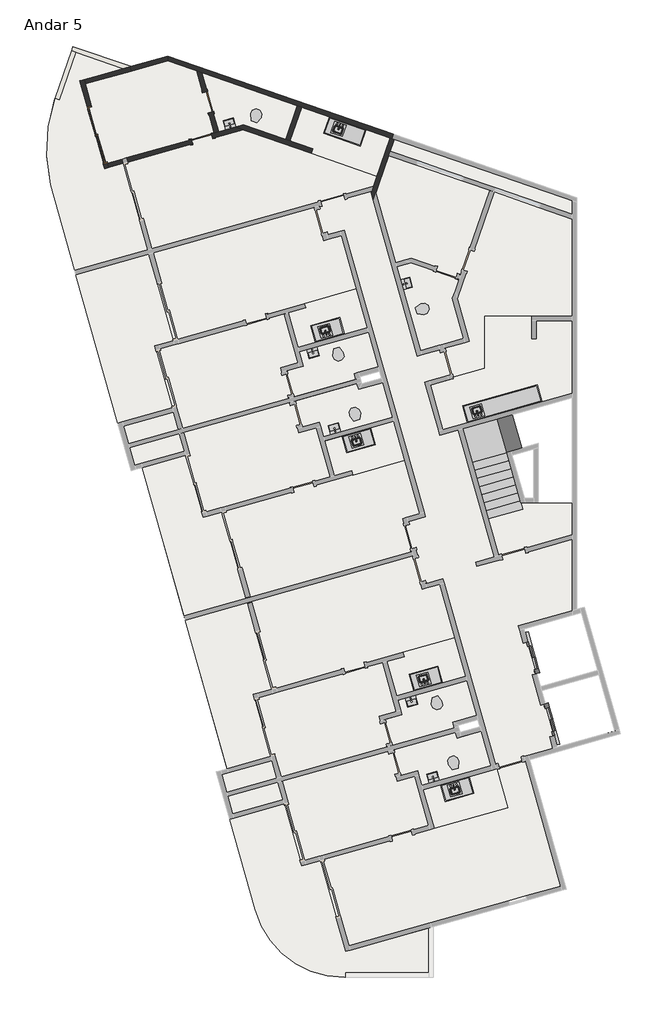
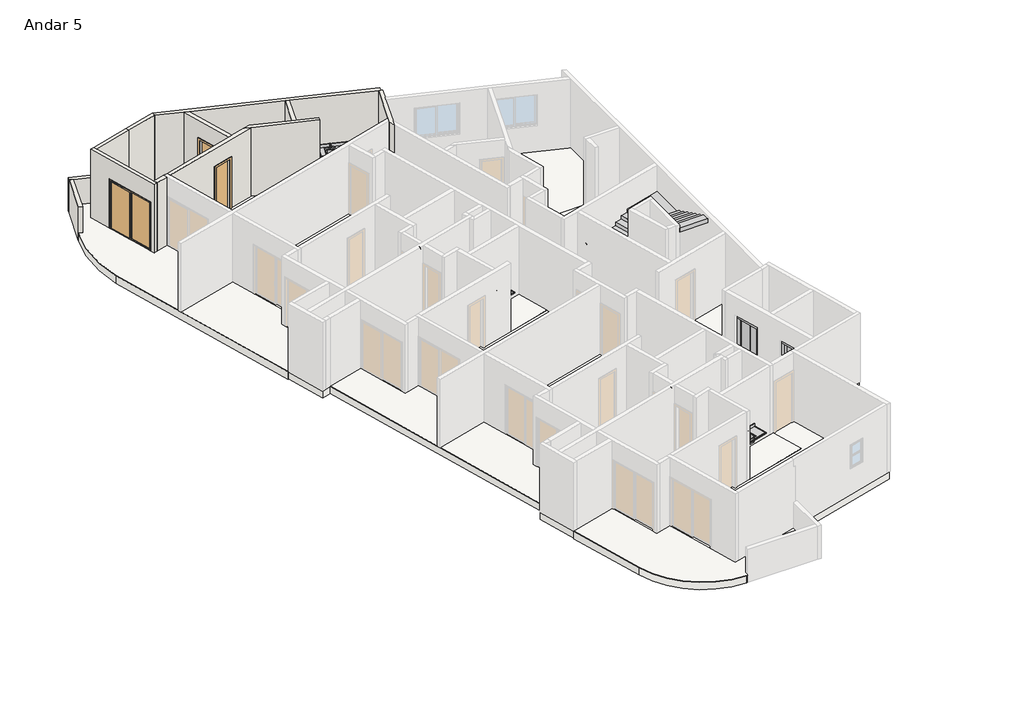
# One storey, part 3 of 3: 18 flow terminals, 18 slabs, 12 walls, 8 proxies, 3 doors, 1 stair flight.
"""IFC4 building model written with IfcOpenShell, lengths in millimetres."""

from ifc_helpers import new_model, si_unit, point, frame, frame_2d, origin, place, context, project, spatial, polyline, circle_curve, trimmed, segment, composite_curve, outline, extrude, faceted_brep, transform, mapped, element, save
from components import specialty_equipment_6c35da8b, specialty_equipment_77dfa124, rf_bancada_cozinha_rf_bancada_cozinha_340fef9f, rf_bancada_cozinha_rf_bancada_cozinha_cfb88ba1, rf_bancada_cozinha_rf_bancada_cozinha_2f873929, rf_bancada_cozinha_rf_bancada_cozinha_798ceddf, p3_70cm_ef4d15e3, p3_70cm_0a698c7c, p4_correr_200cm_eaaa0877, flow_terminal_cab7bae2, flow_terminal_3fb7dc42, flow_terminal_e42b9071, flow_terminal_c6e042c4, ap_01_creme_cr37_13e02e03, ap_01_creme_cr37_5ce6e54d

model = new_model("IFC4")

# Units and contexts
model_context = context("Model", 3, world=origin())
ifc_project = project(units=[si_unit("LENGTHUNIT", "METRE", prefix="MILLI")], contexts=[model_context])

# Site, building, storey
site = spatial("IfcSite", under=ifc_project)
building = spatial("IfcBuilding", under=site)
storey = spatial("IfcBuildingStorey", under=building, Name="Andar 5", Elevation=65250.0)

# Proxies
placement = place(None, origin())
specialty_equipment_shape = specialty_equipment_6c35da8b(model_context)
element("IfcBuildingElementProxy", 1, Name="Porta do elevador : Porta do elevador", ObjectType="Porta do elevador : Porta do elevador", at=placement, inside=storey, context=model_context, shape_type="MappedRepresentation", body=[
    mapped(specialty_equipment_shape, transform((-76594.4337486, 15747.4543727, 65250.0), x_axis=(0.27176796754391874, -0.9623628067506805, 0.0), y_axis=(0.9623628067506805, 0.27176796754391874, 0.0), z_axis=(0.0, 0.0, 1.0))),
])
specialty_equipment_2_shape = specialty_equipment_77dfa124(model_context)
element("IfcBuildingElementProxy", 2, Name="Porta do elevador : Porta do elevador", ObjectType="Porta do elevador : Porta do elevador", at=placement, inside=storey, context=model_context, shape_type="MappedRepresentation", body=[
    mapped(specialty_equipment_2_shape, transform((-75942.1906265, 13437.7836365, 65250.0), x_axis=(-0.27176796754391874, 0.9623628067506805, 0.0), y_axis=(-0.9623628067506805, -0.27176796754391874, 0.0), z_axis=(0.0, 0.0, 1.0))),
])
rf_bancada_cozinha_rf_bancada_cozinha_shape = rf_bancada_cozinha_rf_bancada_cozinha_340fef9f(model_context)
element("IfcBuildingElementProxy", 3, Name="RF_Bancada Cozinha : RF_Bancada Cozinha", ObjectType="RF_Bancada Cozinha : RF_Bancada Cozinha", at=placement, inside=storey, context=model_context, shape_type="MappedRepresentation", body=[
    mapped(rf_bancada_cozinha_rf_bancada_cozinha_shape, transform((-82760.548019, 26451.5820971, 66000.0), x_axis=(-0.9623628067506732, -0.27176796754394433, 0.0), y_axis=(0.27176796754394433, -0.9623628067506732, 0.0), z_axis=(0.0, 0.0, 1.0))),
])
element("IfcBuildingElementProxy", 4, Name="RF_Bancada Cozinha : RF_Bancada Cozinha", ObjectType="RF_Bancada Cozinha : RF_Bancada Cozinha", at=placement, inside=storey, context=model_context, shape_type="MappedRepresentation", body=[
    mapped(rf_bancada_cozinha_rf_bancada_cozinha_shape, transform((-79472.1556117, 14806.9921354, 66000.0), x_axis=(-0.962362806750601, -0.2717679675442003, 0.0), y_axis=(0.2717679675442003, -0.962362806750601, 0.0), z_axis=(0.0, 0.0, 1.0))),
])
rf_bancada_cozinha_rf_bancada_cozinha_2_shape = rf_bancada_cozinha_rf_bancada_cozinha_cfb88ba1(model_context)
element("IfcBuildingElementProxy", 5, Name="RF_Bancada Cozinha : RF_Bancada Cozinha", ObjectType="RF_Bancada Cozinha : RF_Bancada Cozinha", at=placement, inside=storey, context=model_context, shape_type="MappedRepresentation", body=[
    mapped(rf_bancada_cozinha_rf_bancada_cozinha_2_shape, transform((-81877.3021245, 23323.9029751, 66000.0), x_axis=(-0.9623628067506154, -0.27176796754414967, 0.0), y_axis=(0.27176796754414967, -0.9623628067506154, 0.0), z_axis=(0.0, 0.0, 1.0))),
])
element("IfcBuildingElementProxy", 6, Name="RF_Bancada Cozinha : RF_Bancada Cozinha", ObjectType="RF_Bancada Cozinha : RF_Bancada Cozinha", at=placement, inside=storey, context=model_context, shape_type="MappedRepresentation", body=[
    mapped(rf_bancada_cozinha_rf_bancada_cozinha_2_shape, transform((-78588.9097172, 11679.3130134, 66000.0), x_axis=(-0.9623628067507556, -0.27176796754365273, 0.0), y_axis=(0.27176796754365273, -0.9623628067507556, 0.0), z_axis=(0.0, 0.0, 1.0))),
])
rf_bancada_cozinha_rf_bancada_cozinha_3_shape = rf_bancada_cozinha_rf_bancada_cozinha_2f873929(model_context)
element("IfcBuildingElementProxy", 7, Name="RF_Bancada Cozinha : RF_Bancada Cozinha", ObjectType="RF_Bancada Cozinha : RF_Bancada Cozinha", at=placement, inside=storey, context=model_context, shape_type="MappedRepresentation", body=[
    mapped(rf_bancada_cozinha_rf_bancada_cozinha_3_shape, transform((-82030.0326121, 33293.9830661, 66000.0), x_axis=(-0.9449109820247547, 0.32732741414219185, 0.0), y_axis=(-0.32732741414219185, -0.9449109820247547, 0.0), z_axis=(0.0, 0.0, 1.0))),
])
rf_bancada_cozinha_rf_bancada_cozinha_4_shape = rf_bancada_cozinha_rf_bancada_cozinha_798ceddf(model_context)
element("IfcBuildingElementProxy", 8, Name="RF_Bancada Cozinha : RF_Bancada Cozinha", ObjectType="RF_Bancada Cozinha : RF_Bancada Cozinha", at=placement, inside=storey, context=model_context, shape_type="MappedRepresentation", body=[
    mapped(rf_bancada_cozinha_rf_bancada_cozinha_4_shape, transform((-76157.6622331, 24197.9763092, 66000.0), x_axis=(-0.9623628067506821, -0.27176796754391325, 0.0), y_axis=(0.27176796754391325, -0.9623628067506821, 0.0), z_axis=(0.0, 0.0, 1.0))),
])

# Doors
p3_70cm_shape = p3_70cm_ef4d15e3(model_context)
element("IfcDoor", 9, ObjectType="M_Folha única1 : P3 - 70CM", at=placement, inside=storey, context=model_context, shape_type="MappedRepresentation", body=[
    mapped(p3_70cm_shape, transform((-87513.806232, 32980.5300491, 65250.0), x_axis=(0.9623628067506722, 0.2717679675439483, 0.0), y_axis=(-0.2717679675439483, 0.9623628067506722, 0.0), z_axis=(0.0, 0.0, 1.0))),
])
p3_70cm_2_shape = p3_70cm_0a698c7c(model_context)
element("IfcDoor", 10, ObjectType="M_Folha única1 : P3 - 70CM", at=placement, inside=storey, context=model_context, shape_type="MappedRepresentation", body=[
    mapped(p3_70cm_2_shape, transform((-87314.304722, 34205.8663896, 65250.0), x_axis=(-0.2717679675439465, 0.9623628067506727, 0.0), y_axis=(-0.9623628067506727, -0.2717679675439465, 0.0), z_axis=(0.0, 0.0, 1.0))),
])
p4_correr_200cm_shape = p4_correr_200cm_eaaa0877(model_context)
element("IfcDoor", 11, ObjectType="Porta de correr dupla envidraçada sem revestimento : P4 - CORRER - 200CM", at=placement, inside=storey, context=model_context, shape_type="MappedRepresentation", body=[
    mapped(p4_correr_200cm_shape, transform((-91005.8131296, 33111.4415743, 65250.0), x_axis=(0.2717679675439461, -0.9623628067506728, 0.0), y_axis=(0.9623628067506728, 0.2717679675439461, 0.0), z_axis=(0.0, 0.0, 1.0))),
])

# Flow terminals
flow_terminal_shape = flow_terminal_cab7bae2(model_context)
element("IfcFlowTerminal", 12, ObjectType="RF_Pias : Pia da Bancada", at=placement, inside=storey, context=model_context, shape_type="MappedRepresentation", body=[
    mapped(flow_terminal_shape, transform((-83380.5102831, 26570.4992214, 65102.9), x_axis=(-0.9623628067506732, -0.27176796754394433, 0.0), y_axis=(0.27176796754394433, -0.9623628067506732, 0.0), z_axis=(0.0, 0.0, 1.0))),
])
element("IfcFlowTerminal", 13, ObjectType="RF_Pias : Pia da Bancada", at=placement, inside=storey, context=model_context, shape_type="MappedRepresentation", body=[
    mapped(flow_terminal_shape, transform((-80092.1178758, 14925.9092597, 65102.9), x_axis=(-0.962362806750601, -0.2717679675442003, 0.0), y_axis=(0.2717679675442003, -0.962362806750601, 0.0), z_axis=(0.0, 0.0, 1.0))),
])
element("IfcFlowTerminal", 14, ObjectType="RF_Pias : Pia da Bancada", at=placement, inside=storey, context=model_context, shape_type="MappedRepresentation", body=[
    mapped(flow_terminal_shape, transform((-78306.8185143, 23885.0542694, 65102.9), x_axis=(-0.9623628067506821, -0.27176796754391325, 0.0), y_axis=(0.27176796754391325, -0.9623628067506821, 0.0), z_axis=(0.0, 0.0, 1.0))),
])
flow_terminal_2_shape = flow_terminal_3fb7dc42(model_context)
element("IfcFlowTerminal", 15, ObjectType="Deca_Cuba de Apoio Retangular_L7300 : L.7300.17_Branco Gelo GE17", at=placement, inside=storey, context=model_context, shape_type="MappedRepresentation", body=[
    mapped(flow_terminal_2_shape, transform((-83090.0822283, 23308.7374016, 66000.0), x_axis=(-0.9623628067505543, -0.2717679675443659, 0.0), y_axis=(0.2717679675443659, -0.9623628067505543, 0.0), z_axis=(0.0, 0.0, 1.0))),
])
element("IfcFlowTerminal", 16, ObjectType="Deca_Cuba de Apoio Retangular_L7300 : L.7300.17_Branco Gelo GE17", at=placement, inside=storey, context=model_context, shape_type="MappedRepresentation", body=[
    mapped(flow_terminal_2_shape, transform((-79801.689821, 11664.1474399, 66000.0), x_axis=(-0.9623628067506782, -0.2717679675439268, 0.0), y_axis=(0.2717679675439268, -0.9623628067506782, 0.0), z_axis=(0.0, 0.0, 1.0))),
])
element("IfcFlowTerminal", 17, ObjectType="Deca_Cuba de Apoio Retangular_L7300 : L.7300.17_Branco Gelo GE17", at=placement, inside=storey, context=model_context, shape_type="MappedRepresentation", body=[
    mapped(flow_terminal_2_shape, transform((-80677.0991462, 28154.8020678, 66000.0), x_axis=(-0.2717679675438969, 0.9623628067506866, 0.0), y_axis=(-0.9623628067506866, -0.2717679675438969, 0.0), z_axis=(0.0, 0.0, 1.0))),
])
element("IfcFlowTerminal", 18, ObjectType="Deca_Cuba de Apoio Retangular_L7300 : L.7300.17_Branco Gelo GE17", at=placement, inside=storey, context=model_context, shape_type="MappedRepresentation", body=[
    mapped(flow_terminal_2_shape, transform((-86597.4204814, 33488.7004496, 66000.0), x_axis=(-0.9623628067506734, -0.27176796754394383, 0.0), y_axis=(0.27176796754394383, -0.9623628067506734, 0.0), z_axis=(0.0, 0.0, 1.0))),
])
flow_terminal_3_shape = flow_terminal_e42b9071(model_context)
element("IfcFlowTerminal", 19, ObjectType="Deca_Cuba de Apoio Retangular_L7300 : L.7300.17_Branco Gelo GE17", at=placement, inside=storey, context=model_context, shape_type="MappedRepresentation", body=[
    mapped(flow_terminal_3_shape, transform((-83802.1143033, 25830.1279553, 66000.0), x_axis=(-0.9623628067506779, -0.2717679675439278, 0.0), y_axis=(0.2717679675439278, -0.9623628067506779, 0.0), z_axis=(0.0, 0.0, 1.0))),
])
element("IfcFlowTerminal", 20, ObjectType="Deca_Cuba de Apoio Retangular_L7300 : L.7300.17_Branco Gelo GE17", at=placement, inside=storey, context=model_context, shape_type="MappedRepresentation", body=[
    mapped(flow_terminal_3_shape, transform((-80513.721896, 14185.5379936, 66000.0), x_axis=(-0.962362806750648, -0.27176796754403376, 0.0), y_axis=(0.27176796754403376, -0.962362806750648, 0.0), z_axis=(0.0, 0.0, 1.0))),
])
flow_terminal_4_shape = flow_terminal_c6e042c4(model_context)
element("IfcFlowTerminal", 21, ObjectType="RF_Pias : Pia da Bancada", at=placement, inside=storey, context=model_context, shape_type="MappedRepresentation", body=[
    mapped(flow_terminal_4_shape, transform((-82343.483233, 22898.2626745, 65102.9), x_axis=(-0.9623628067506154, -0.27176796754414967, 0.0), y_axis=(0.27176796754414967, -0.9623628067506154, 0.0), z_axis=(0.0, 0.0, 1.0))),
])
element("IfcFlowTerminal", 22, ObjectType="RF_Pias : Pia da Bancada", at=placement, inside=storey, context=model_context, shape_type="MappedRepresentation", body=[
    mapped(flow_terminal_4_shape, transform((-79055.0908257, 11253.6727129, 65102.9), x_axis=(-0.9623628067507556, -0.27176796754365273, 0.0), y_axis=(0.27176796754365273, -0.9623628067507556, 0.0), z_axis=(0.0, 0.0, 1.0))),
])
element("IfcFlowTerminal", 23, ObjectType="RF_Pias : Pia da Bancada", at=placement, inside=storey, context=model_context, shape_type="MappedRepresentation", body=[
    mapped(flow_terminal_4_shape, transform((-82939.3392028, 33309.5545572, 65102.9), x_axis=(-0.9449109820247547, 0.32732741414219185, 0.0), y_axis=(-0.32732741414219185, -0.9449109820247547, 0.0), z_axis=(0.0, 0.0, 1.0))),
])
ap_01_creme_cr37_shape = ap_01_creme_cr37_13e02e03(model_context)
element("IfcFlowTerminal", 24, ObjectType="Deca_Shared_Assento_P.900 : AP.01_Creme CR37", at=placement, inside=storey, context=model_context, shape_type="MappedRepresentation", body=[
    mapped(ap_01_creme_cr37_shape, transform((-83017.5301151, 25983.4740486, 65637.8723674), x_axis=(0.9623628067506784, 0.2717679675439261, 0.0), y_axis=(0.0, 0.0, 1.0), z_axis=(0.2717679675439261, -0.9623628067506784, 0.0))),
])
element("IfcFlowTerminal", 25, ObjectType="Deca_Shared_Assento_P.900 : AP.01_Creme CR37", at=placement, inside=storey, context=model_context, shape_type="MappedRepresentation", body=[
    mapped(ap_01_creme_cr37_shape, transform((-79729.1377078, 14338.8840869, 65637.8723674), x_axis=(0.962362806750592, 0.2717679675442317, 0.0), y_axis=(0.0, 0.0, 1.0), z_axis=(0.2717679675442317, -0.962362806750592, 0.0))),
])
element("IfcFlowTerminal", 26, ObjectType="Deca_Shared_Assento_P.900 : AP.01_Creme CR37", at=placement, inside=storey, context=model_context, shape_type="MappedRepresentation", body=[
    mapped(ap_01_creme_cr37_shape, transform((-80349.5164684, 27236.3600819, 65637.8723674), x_axis=(-0.271767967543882, 0.9623628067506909, 0.0), y_axis=(0.0, 0.0, 1.0), z_axis=(0.9623628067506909, 0.271767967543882, 0.0))),
])
element("IfcFlowTerminal", 27, ObjectType="Deca_Shared_Assento_P.900 : AP.01_Creme CR37", at=placement, inside=storey, context=model_context, shape_type="MappedRepresentation", body=[
    mapped(ap_01_creme_cr37_shape, transform((-85777.8760768, 33566.4131555, 65637.8723674), x_axis=(-0.9449109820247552, 0.3273274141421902, 0.0), y_axis=(0.0, 0.0, 1.0000000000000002), z_axis=(0.3273274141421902, 0.9449109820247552, 0.0))),
])
ap_01_creme_cr37_2_shape = ap_01_creme_cr37_5ce6e54d(model_context)
element("IfcFlowTerminal", 28, ObjectType="Deca_Shared_Assento_P.900 : AP.01_Creme CR37", at=placement, inside=storey, context=model_context, shape_type="MappedRepresentation", body=[
    mapped(ap_01_creme_cr37_2_shape, transform((-82341.1813229, 23588.4422577, 65637.8723674), x_axis=(0.9623628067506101, 0.27176796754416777, 0.0), y_axis=(0.0, 0.0, -1.0), z_axis=(-0.27176796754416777, 0.9623628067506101, 0.0))),
])
element("IfcFlowTerminal", 29, ObjectType="Deca_Shared_Assento_P.900 : AP.01_Creme CR37", at=placement, inside=storey, context=model_context, shape_type="MappedRepresentation", body=[
    mapped(ap_01_creme_cr37_2_shape, transform((-79052.7889156, 11943.852296, 65637.8723674), x_axis=(0.9623628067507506, 0.2717679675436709, 0.0), y_axis=(0.0, 0.0, -1.0000000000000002), z_axis=(-0.2717679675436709, 0.9623628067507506, 0.0))),
])

# Slabs
element("IfcSlab", 30, ObjectType="TZ_Piso de Áreas Molhadas", at=placement, inside=storey, context=model_context, shape_type="SweptSolid", body=[
    extrude(outline(composite_curve([segment(polyline([(-90765.4571774, 31984.341749), (-90143.7425806, 32159.9118263), (-89328.438678, 29272.823406), (-91766.0080564, 28584.4621444), (-92573.2320087, 31442.9384962)]), True, "CONTINUOUS"), segment(trimmed(circle_curve(frame_2d((-87414.5556743, 32622.5665107)), 5291.829908), [point((-92573.2320087, 31442.9384962))], [point((-92422.0860726, 34333.7366032))], False, "CARTESIAN"), True, "CONTINUOUS"), segment(polyline([(-92422.0860726, 34333.7366032), (-92280.2794148, 34284.6132387), (-91729.7010481, 35873.9929322), (-90151.0501028, 35327.1311202), (-91594.3494784, 34919.5483093), (-90765.4571774, 31984.341749)]), True, "CONTINUOUS")], self_intersect=False)), frame((0.0, 0.0, 65250.0), z_axis=(0.0, 0.0, 1.0), x_axis=(1.0, 0.0, 0.0)), (0.0, 0.0, 1.0), 20.0),
])
element("IfcSlab", 31, ObjectType="TZ_Piso de Áreas Molhadas", at=placement, inside=storey, context=model_context, shape_type="SweptSolid", body=[
    extrude(outline(polyline([(-88472.3695802, 26241.3805647), (-89094.084177, 26065.8104874), (-88509.7830468, 23996.7304529), (-90325.6378284, 23483.9392686), (-91725.2428613, 28440.1077234), (-89287.6734828, 29128.468985), (-88472.3695802, 26241.3805647)])), frame((0.0, 0.0, 65250.0), z_axis=(0.0, 0.0, 1.0), x_axis=(1.0, 0.0, 0.0)), (0.0, 0.0, 1.0), 20.0),
])
element("IfcSlab", 32, ObjectType="TZ_Piso de Áreas Molhadas", at=placement, inside=storey, context=model_context, shape_type="SweptSolid", body=[
    extrude(outline(polyline([(-86855.3501733, 20515.3218645), (-86040.0462707, 17628.2334443), (-88109.1263052, 17043.9323141), (-89508.731338, 22000.1007688), (-88061.3659003, 22408.8318218), (-87477.0647701, 20339.7517872), (-86855.3501733, 20515.3218645)])), frame((0.0, 0.0, 65250.0), z_axis=(0.0, 0.0, 1.0), x_axis=(1.0, 0.0, 0.0)), (0.0, 0.0, 1.0), 20.0),
])
element("IfcSlab", 33, ObjectType="TZ_Piso de Áreas Molhadas", at=placement, inside=storey, context=model_context, shape_type="SweptSolid", body=[
    extrude(outline(polyline([(-78926.5637691, 28284.9851582), (-79146.9727346, 27648.7205404), (-78771.1333302, 26317.8283554), (-80214.6775403, 25910.176404), (-81004.3851492, 28706.6252933), (-80530.2499593, 28840.5194505), (-78926.5637691, 28284.9851582)])), frame((0.0, 0.0, 65250.0), z_axis=(0.0, 0.0, 1.0), x_axis=(1.0, 0.0, 0.0)), (0.0, 0.0, 1.0), 20.0),
])
element("IfcSlab", 34, ObjectType="TZ_Piso de Áreas Molhadas", at=placement, inside=storey, context=model_context, shape_type="SweptSolid", body=[
    extrude(outline(polyline([(-78070.9150345, 27060.8243598), (-76493.6479314, 27060.8243598), (-76493.6479314, 26310.8243598), (-76343.6479314, 26310.8243598), (-76343.6479314, 26910.8243598), (-75147.8282189, 26910.8243598), (-75147.8282189, 24483.4871675), (-79467.3156296, 23263.6786855), (-79888.5559793, 24755.3410359), (-79127.7601479, 24970.1871785), (-79141.3485461, 25018.3053183), (-78070.9150345, 25320.5920836), (-78070.9150345, 27060.8243598)])), frame((0.0, 0.0, 65250.0), z_axis=(0.0, 0.0, 1.0), x_axis=(1.0, 0.0, 0.0)), (0.0, 0.0, 1.0), 20.0),
])
element("IfcSlab", 35, ObjectType="TZ_Piso de Áreas Molhadas", at=placement, inside=storey, context=model_context, shape_type="SweptSolid", body=[
    extrude(outline(polyline([(-84719.4810559, 32955.6762822), (-86137.8721095, 33447.0223292), (-86956.7711455, 33215.7680402), (-87515.4733556, 35194.1992432), (-84326.6881589, 34089.5694606), (-84719.4810559, 32955.6762822)])), frame((0.0, 0.0, 65250.0), z_axis=(0.0, 0.0, 1.0), x_axis=(1.0, 0.0, 0.0)), (0.0, 0.0, 1.0), 20.0),
])
element("IfcSlab", 36, ObjectType="TZ_Piso de Áreas Molhadas", at=placement, inside=storey, context=model_context, shape_type="SweptSolid", body=[
    extrude(outline(polyline([(-84577.7444086, 32906.57717), (-84184.9515116, 34040.4703485), (-81226.8582774, 33015.7547641), (-81668.7502865, 31740.1249383), (-83870.9147351, 32502.9785914), (-83821.815623, 32644.7152387), (-84577.7444086, 32906.57717)])), frame((0.0, 0.0, 65250.0), z_axis=(0.0, 0.0, 1.0), x_axis=(1.0, 0.0, 0.0)), (0.0, 0.0, 1.0), 20.0),
])
element("IfcSlab", 37, ObjectType="TZ_Piso de Áreas Molhadas", at=placement, inside=storey, context=model_context, shape_type="SweptSolid", body=[
    extrude(outline(polyline([(-81949.8925784, 26524.6420501), (-81623.7710174, 25369.806682), (-82432.1557751, 25141.5215893), (-82377.8021816, 24949.0490279), (-84456.5058441, 24362.030218), (-84701.0970149, 25228.1567441), (-84123.6793309, 25391.2175246), (-84259.5633146, 25872.398928), (-81949.8925784, 26524.6420501)])), frame((0.0, 0.0, 65250.0), z_axis=(0.0, 0.0, 1.0), x_axis=(1.0, 0.0, 0.0)), (0.0, 0.0, 1.0), 20.0),
])
element("IfcSlab", 38, ObjectType="TZ_Piso de Áreas Molhadas", at=placement, inside=storey, context=model_context, shape_type="SweptSolid", body=[
    extrude(outline(polyline([(-84089.7975819, 27479.0039186), (-82357.5445298, 27968.1862602), (-81990.6577736, 26668.9964711), (-84300.3285098, 26016.753349), (-84626.4500708, 27171.5887171), (-84049.0323868, 27334.6494976), (-84089.7975819, 27479.0039186)])), frame((0.0, 0.0, 65250.0), z_axis=(0.0, 0.0, 1.0), x_axis=(1.0, 0.0, 0.0)), (0.0, 0.0, 1.0), 20.0),
])
element("IfcSlab", 39, ObjectType="TZ_Piso de Áreas Molhadas", at=placement, inside=storey, context=model_context, shape_type="SweptSolid", body=[
    extrude(outline(polyline([(-84171.1494782, 23351.5492709), (-84415.740649, 24217.675797), (-82337.0369864, 24804.6946069), (-82282.6833929, 24612.2220455), (-81474.2986352, 24840.5071383), (-81148.1770742, 23685.6717702), (-83457.8478104, 23033.4286481), (-83593.7317942, 23514.6100514), (-84171.1494782, 23351.5492709)])), frame((0.0, 0.0, 65250.0), z_axis=(0.0, 0.0, 1.0), x_axis=(1.0, 0.0, 0.0)), (0.0, 0.0, 1.0), 20.0),
])
element("IfcSlab", 40, ObjectType="TZ_Piso de Áreas Molhadas", at=placement, inside=storey, context=model_context, shape_type="SweptSolid", body=[
    extrude(outline(composite_curve([segment(polyline([(-79945.4990038, 5119.4122055), (-82713.5540687, 5119.4122055), (-82713.5540687, 4969.4122055), (-82751.3896972, 4969.4122055)]), True, "CONTINUOUS"), segment(trimmed(circle_curve(frame_2d((-82751.3896972, 8069.4122055)), 3100.0), [point((-82751.3896972, 4969.4122055))], [point((-85734.7143981, 7226.9315061))], False, "CARTESIAN"), True, "CONTINUOUS"), segment(polyline([(-85734.7143981, 7226.9315061), (-86588.8282733, 10251.4506708), (-84772.9735093, 10764.2419177), (-84188.6722855, 8695.1618243), (-83566.957766, 8870.7319029), (-82710.8885369, 5839.2889958), (-79945.4990038, 6620.2256515), (-79945.4990038, 5119.4122055)]), True, "CONTINUOUS")], self_intersect=False)), frame((0.0, 0.0, 65250.0), z_axis=(0.0, 0.0, 1.0), x_axis=(1.0, 0.0, 0.0)), (0.0, 0.0, 1.0), 20.0),
])
element("IfcSlab", 41, ObjectType="TZ_Piso de Áreas Molhadas", at=placement, inside=storey, context=model_context, shape_type="SweptSolid", body=[
    extrude(outline(polyline([(-78185.906228, 13195.9171766), (-77859.7846669, 12041.0818085), (-80169.4554031, 11388.8386864), (-80305.3393869, 11870.0200898), (-80882.7570709, 11706.9593092), (-81127.3482417, 12573.0858353), (-79048.6445791, 13160.1046452), (-78994.2909856, 12967.6320839), (-78185.906228, 13195.9171766)])), frame((0.0, 0.0, 65250.0), z_axis=(0.0, 0.0, 1.0), x_axis=(1.0, 0.0, 0.0)), (0.0, 0.0, 1.0), 20.0),
])
element("IfcSlab", 42, ObjectType="TZ_Piso de Áreas Molhadas", at=placement, inside=storey, context=model_context, shape_type="SweptSolid", body=[
    extrude(outline(polyline([(-77307.7782946, 10638.3027935), (-79761.8034518, 9945.2944763), (-80128.690208, 11244.4842654), (-77674.6650508, 11937.4925826), (-77307.7782946, 10638.3027935)])), frame((0.0, 0.0, 65250.0), z_axis=(0.0, 0.0, 1.0), x_axis=(1.0, 0.0, 0.0)), (0.0, 0.0, 1.0), 20.0),
])
element("IfcSlab", 43, ObjectType="TZ_Piso de Áreas Molhadas", at=placement, inside=storey, context=model_context, shape_type="SweptSolid", body=[
    extrude(outline(polyline([(-81107.9410005, 23543.1910314), (-80740.5251229, 22242.1275601), (-82472.778175, 21752.9452185), (-82513.5433702, 21897.2996395), (-83090.9610542, 21734.238859), (-83418.0192411, 22888.8089065), (-81107.9410005, 23543.1910314)])), frame((0.0, 0.0, 65250.0), z_axis=(0.0, 0.0, 1.0), x_axis=(1.0, 0.0, 0.0)), (0.0, 0.0, 1.0), 20.0),
])
element("IfcSlab", 44, ObjectType="TZ_Piso de Áreas Molhadas", at=placement, inside=storey, context=model_context, shape_type="SweptSolid", body=[
    extrude(outline(polyline([(-85183.9771729, 14596.790603), (-85805.6917697, 14421.2205257), (-85221.3906395, 12352.1404912), (-86668.7560772, 11943.4094383), (-88068.36111, 16899.5778931), (-85999.2810755, 17483.8790233), (-85183.9771729, 14596.790603)])), frame((0.0, 0.0, 65250.0), z_axis=(0.0, 0.0, 1.0), x_axis=(1.0, 0.0, 0.0)), (0.0, 0.0, 1.0), 20.0),
])
element("IfcSlab", 45, ObjectType="TZ_Piso de Áreas Molhadas", at=placement, inside=storey, context=model_context, shape_type="SweptSolid", body=[
    extrude(outline(polyline([(-81412.7046076, 13583.5667824), (-80835.2869236, 13746.6275629), (-80971.1709074, 14227.8089663), (-78661.5001712, 14880.0520884), (-78335.3786101, 13725.2167203), (-79143.7633678, 13496.9316276), (-79089.4097743, 13304.4590662), (-81168.1134368, 12717.4402563), (-81412.7046076, 13583.5667824)])), frame((0.0, 0.0, 65250.0), z_axis=(0.0, 0.0, 1.0), x_axis=(1.0, 0.0, 0.0)), (0.0, 0.0, 1.0), 20.0),
])
element("IfcSlab", 46, ObjectType="TZ_Piso de Áreas Molhadas", at=placement, inside=storey, context=model_context, shape_type="SweptSolid", body=[
    extrude(outline(polyline([(-78701.7362448, 15022.5328272), (-81012.8731576, 14371.8995868), (-81338.0576635, 15526.9987554), (-80760.6399795, 15690.059536), (-80801.4051746, 15834.413957), (-79069.1521225, 16323.5962985), (-78701.7362448, 15022.5328272)])), frame((0.0, 0.0, 65250.0), z_axis=(0.0, 0.0, 1.0), x_axis=(1.0, 0.0, 0.0)), (0.0, 0.0, 1.0), 20.0),
])
element("IfcSlab", 47, ObjectType="TZ_Laje 30cm", at=placement, inside=storey, context=model_context, shape_type="SweptSolid", body=[
    extrude(outline(composite_curve([segment(polyline([(-82713.5540687, 4969.4122055), (-82751.3896972, 4969.4122055)]), True, "CONTINUOUS"), segment(trimmed(circle_curve(frame_2d((-82751.3896972, 8069.4122055)), 3100.0), [point((-82751.3896972, 4969.4122055))], [point((-85734.7143981, 7226.9315061))], False, "CARTESIAN"), True, "CONTINUOUS"), segment(polyline([(-85734.7143981, 7226.9315061), (-86588.8282747, 10251.4506758), (-86574.3928326, 10255.5271953), (-87018.7334595, 11828.9903844), (-86664.6795577, 11928.9739962), (-89512.8078575, 22014.5362109), (-89866.8617594, 21914.5525991), (-90311.2023863, 23488.0157882), (-90325.6378284, 23483.9392686), (-92573.2320087, 31442.9384962)]), True, "CONTINUOUS"), segment(trimmed(circle_curve(frame_2d((-87414.5556743, 32622.5665107)), 5291.829908), [point((-92573.2320087, 31442.9384962))], [point((-92426.4466323, 34320.9224218))], False, "CARTESIAN"), True, "CONTINUOUS"), segment(polyline([(-92426.4466323, 34320.9224218), (-92422.0160621, 34333.7123509), (-92403.1178425, 34327.1658026), (-91809.986912, 36039.3839237), (-89899.2062586, 35377.468778), (-88658.6666899, 35727.7929124), (-75017.8282189, 31002.4584964), (-75017.8282189, 17238.3098681), (-74750.7083414, 17313.7436086), (-73565.8000029, 13117.8417711), (-76592.4310301, 12263.1315132), (-75369.6745845, 7933.2050117), (-79815.4990038, 6677.7193903), (-79815.4990038, 4989.4122055), (-82713.5540687, 4989.4122055), (-82713.5540687, 4969.4122055)]), True, "CONTINUOUS")], self_intersect=False), holes=[polyline([(-81583.0058223, 25225.452261), (-82247.0361589, 25037.9323634), (-82179.094167, 24797.3416617), (-81515.0638304, 24984.8615593), (-81583.0058223, 25225.452261)]), polyline([(-78294.613415, 13580.8622993), (-78958.6437516, 13393.3424017), (-78890.7017597, 13152.7517), (-78226.6714231, 13340.2715976), (-78294.613415, 13580.8622993)]), polyline([(-74840.4856705, 17153.3066079), (-76760.3994699, 16611.1295126), (-76221.8794944, 14704.1660107), (-75646.150803, 12665.442005), (-73726.2370035, 13207.6191002), (-74270.7319215, 15135.7405865), (-74840.4856705, 17153.3066079)]), polyline([(-77952.9130698, 20291.1915783), (-76801.2963825, 20616.4041949), (-76858.5413412, 20819.1154254), (-75147.8282189, 20819.1154254), (-75147.8282189, 24343.0530162), (-78807.9060206, 23309.4595541), (-77952.9130698, 20291.1915783)])]), frame((0.0, 0.0, 64950.0), z_axis=(0.0, 0.0, 1.0), x_axis=(1.0, 0.0, 0.0)), (0.0, 0.0, 1.0), 300.0),
])

# Stair flight
element("IfcStairFlight", 48, ObjectType="Profundidade de 150mm", at=placement, inside=storey, context=model_context, shape_type="Brep", body=[
    faceted_brep([(-78029.0944782, 20560.1246789, 65388.0952381), (-77952.7808761, 20290.7249124, 65388.0952381), (-76802.2714069, 20616.6328483, 65388.0952381), (-76878.3664628, 20886.0945229, 65388.0952381), (-78029.0944782, 20560.1246789, 65250.0), (-77952.7808761, 20290.7249124, 65250.0), (-76802.2714069, 20616.6328483, 65250.0), (-76878.3664628, 20886.0945229, 65250.0), (-78105.4080802, 20829.5244453, 65526.1904762), (-78029.0944782, 20560.1246789, 65526.1904762), (-76878.3664628, 20886.0945229, 65526.1904762), (-76954.4615188, 21155.5561975, 65526.1904762), (-78105.4080802, 20829.5244453, 65358.939228), (-78045.2065482, 20617.0029783, 65250.0), (-76894.4323913, 20942.985893, 65250.0), (-76954.4615188, 21155.5561975, 65358.939228), (-78181.7216823, 21098.9242117, 65664.2857143), (-78105.4080802, 20829.5244453, 65664.2857143), (-76954.4615188, 21155.5561975, 65664.2857143), (-77030.5565747, 21425.017872, 65664.2857143), (-78181.7216823, 21098.9242117, 65497.0344661), (-77030.5565747, 21425.017872, 65497.0344661), (-78258.0352843, 21368.3239781, 65802.3809524), (-78181.7216823, 21098.9242117, 65802.3809524), (-77030.5565747, 21425.017872, 65802.3809524), (-77106.6516307, 21694.4795466, 65802.3809524), (-78258.0352843, 21368.3239781, 65635.1297042), (-77106.6516307, 21694.4795466, 65635.1297042), (-78334.3488864, 21637.7237445, 65940.4761905), (-78258.0352843, 21368.3239781, 65940.4761905), (-77106.6516307, 21694.4795466, 65940.4761905), (-77182.7466866, 21963.9412211, 65940.4761905), (-78334.3488864, 21637.7237445, 65773.2249423), (-77182.7466866, 21963.9412211, 65773.2249423), (-78410.6624885, 21907.1235109, 66078.5714286), (-78334.3488864, 21637.7237445, 66078.5714286), (-77182.7466866, 21963.9412211, 66078.5714286), (-77258.8417426, 22233.4028957, 66078.5714286), (-78410.6624885, 21907.1235109, 65911.3201804), (-77258.8417426, 22233.4028957, 65911.3201804), (-78486.9760905, 22176.5232773, 66216.6666667), (-78410.6624885, 21907.1235109, 66216.6666667), (-77258.8417426, 22233.4028957, 66216.6666667), (-77334.9367985, 22502.8645702, 66216.6666667), (-78486.9760905, 22176.5232773, 66049.4154185), (-77334.9367985, 22502.8645702, 66049.4154185), (-77650.6473278, 23620.8332322, 66354.7619048), (-78803.8582924, 23295.1703972, 66354.7619048), (-78572.8230038, 22479.5772253, 66354.7619048), (-78486.9760905, 22176.5232773, 66354.7619048), (-77334.9367985, 22502.8645702, 66354.7619048), (-77337.6544782, 22512.4881983, 66354.7619048), (-77650.6473278, 23620.8332322, 66204.7619048), (-78803.8582924, 23295.1703972, 66204.7619048), (-78572.8230038, 22479.5772253, 66204.7619048), (-77420.5378643, 22805.9881601, 66204.7619048), (-77337.6544782, 22512.4881983, 66204.7619048), (-77650.6473278, 23620.8332322, 66492.8571429), (-77337.6544782, 22512.4881983, 66492.8571429), (-77303.5536842, 22522.118146, 66492.8571429), (-77083.6709973, 22584.2122653, 66492.8571429), (-77396.6638468, 23692.5572992, 66492.8571429), (-77616.5465338, 23630.4631799, 66492.8571429), (-77396.6638468, 23692.5572992, 66319.0904432), (-77616.5465338, 23630.4631799, 66204.7619048), (-77303.5536842, 22522.118146, 66204.7619048), (-77083.6709973, 22584.2122653, 66319.0904432), (-77127.202261, 23768.6523301, 66630.952381), (-77396.6638468, 23692.5572992, 66630.952381), (-77083.6709973, 22584.2122653, 66630.952381), (-76814.2094114, 22660.3072962, 66630.952381), (-77127.202261, 23768.6523301, 66459.1976509), (-76814.2094114, 22660.3072962, 66459.1976509), (-76857.7406751, 23844.747361, 66769.047619), (-77127.202261, 23768.6523301, 66769.047619), (-76814.2094114, 22660.3072962, 66769.047619), (-76544.7478255, 22736.4023271, 66769.047619), (-76857.7406751, 23844.747361, 66599.3048586), (-76544.7478255, 22736.4023271, 66599.3048586), (-76588.2790892, 23920.842392, 66907.1428571), (-76857.7406751, 23844.747361, 66907.1428571), (-76544.7478255, 22736.4023271, 66907.1428571), (-76275.2862396, 22812.497358, 66907.1428571), (-76588.2790892, 23920.842392, 66739.4120663), (-75975.593386, 22897.1295956, 66895.2380952), (-76275.2862396, 22812.497358, 66895.2380952), (-75147.8282189, 22779.1154254, 67045.2380952), (-75147.8282189, 24327.6207947, 67045.2380952), (-76288.5862355, 24005.4746296, 67045.2380952), (-76588.2790892, 23920.842392, 67045.2380952), (-76275.2862396, 22812.497358, 67045.2380952), (-76275.2862396, 22779.1154254, 67045.2380952), (-75147.8282189, 22779.1154254, 66895.2380952), (-75147.8282189, 24327.6207947, 66895.2380952), (-76288.5862355, 24005.4746296, 66895.2380952), (-76275.2862396, 22779.1154254, 66895.2380952), (-75147.8282189, 22779.1154254, 67183.3333333), (-76275.2862396, 22779.1154254, 67183.3333333), (-76275.2862396, 22744.1370326, 67183.3333333), (-76275.2862396, 22499.1154254, 67183.3333333), (-75147.8282189, 22499.1154254, 67183.3333333), (-75147.8282189, 22744.1370326, 67183.3333333), (-75147.8282189, 22499.1154254, 67016.0820852), (-75147.8282189, 22744.1370326, 66895.2380952), (-76275.2862396, 22744.1370326, 66895.2380952), (-76275.2862396, 22499.1154254, 67016.0820852), (-75147.8282189, 22219.1154254, 67321.4285714), (-75147.8282189, 22499.1154254, 67321.4285714), (-76275.2862396, 22499.1154254, 67321.4285714), (-76275.2862396, 22219.1154254, 67321.4285714), (-75147.8282189, 22219.1154254, 67154.1773233), (-76275.2862396, 22219.1154254, 67154.1773233), (-75147.8282189, 21939.1154254, 67459.5238095), (-75147.8282189, 22219.1154254, 67459.5238095), (-76275.2862396, 22219.1154254, 67459.5238095), (-76275.2862396, 21939.1154254, 67459.5238095), (-75147.8282189, 21939.1154254, 67292.2725614), (-76275.2862396, 21939.1154254, 67292.2725614), (-75147.8282189, 21659.1154254, 67597.6190476), (-75147.8282189, 21939.1154254, 67597.6190476), (-76275.2862396, 21939.1154254, 67597.6190476), (-76275.2862396, 21659.1154254, 67597.6190476), (-75147.8282189, 21659.1154254, 67430.3677995), (-76275.2862396, 21659.1154254, 67430.3677995), (-75147.8282189, 21379.1154254, 67735.7142857), (-75147.8282189, 21659.1154254, 67735.7142857), (-76275.2862396, 21659.1154254, 67735.7142857), (-76275.2862396, 21379.1154254, 67735.7142857), (-75147.8282189, 21379.1154254, 67568.4630376), (-76275.2862396, 21379.1154254, 67568.4630376), (-75147.8282189, 21099.1154254, 67873.8095238), (-75147.8282189, 21379.1154254, 67873.8095238), (-76275.2862396, 21379.1154254, 67873.8095238), (-76275.2862396, 21099.1154254, 67873.8095238), (-75147.8282189, 21099.1154254, 67706.5582757), (-76275.2862396, 21099.1154254, 67706.5582757), (-75147.8282189, 20819.1154254, 68011.9047619), (-75147.8282189, 21099.1154254, 68011.9047619), (-76275.2862396, 21099.1154254, 68011.9047619), (-76275.2862396, 20819.1154254, 68011.9047619), (-75147.8282189, 20819.1154254, 67844.6535138), (-76275.2862396, 20819.1154254, 67844.6535138), (-76275.2862396, 23958.3777566, 66895.2380952)], [[[0, 1, 2, 3]], [[1, 0, 4, 5]], [[2, 1, 5, 6]], [[3, 2, 6, 7]], [[8, 9, 10, 11]], [[4, 0, 9, 8, 12, 13]], [[0, 3, 10, 9]], [[3, 7, 14, 15, 11, 10]], [[16, 17, 18, 19]], [[17, 16, 20, 12, 8]], [[8, 11, 18, 17]], [[19, 18, 11, 15, 21]], [[22, 23, 24, 25]], [[23, 22, 26, 20, 16]], [[16, 19, 24, 23]], [[25, 24, 19, 21, 27]], [[28, 29, 30, 31]], [[29, 28, 32, 26, 22]], [[22, 25, 30, 29]], [[31, 30, 25, 27, 33]], [[34, 35, 36, 37]], [[35, 34, 38, 32, 28]], [[28, 31, 36, 35]], [[37, 36, 31, 33, 39]], [[40, 41, 42, 43]], [[41, 40, 44, 38, 34]], [[34, 37, 42, 41]], [[43, 42, 37, 39, 45]], [[46, 47, 48, 49, 50, 51]], [[47, 46, 52, 53]], [[40, 49, 48, 47, 53, 54, 44]], [[40, 43, 50, 49]], [[51, 50, 43, 45, 55, 56]], [[57, 58, 59, 60, 61, 62]], [[46, 57, 62, 61, 63, 64, 52]], [[46, 51, 58, 57]], [[58, 51, 56, 65, 66, 60, 59]], [[67, 68, 69, 70]], [[68, 67, 71, 63, 61]], [[61, 60, 69, 68]], [[70, 69, 60, 66, 72]], [[73, 74, 75, 76]], [[74, 73, 77, 71, 67]], [[67, 70, 75, 74]], [[76, 75, 70, 72, 78]], [[79, 80, 81, 82]], [[80, 79, 83, 77, 73]], [[73, 76, 81, 80]], [[82, 81, 76, 78, 84, 85]], [[86, 87, 88, 89, 90, 91]], [[87, 86, 92, 93]], [[79, 89, 88, 87, 93, 94, 83]], [[79, 82, 90, 89]], [[91, 90, 82, 85, 95]], [[96, 97, 98, 99, 100, 101]], [[86, 96, 101, 100, 102, 103, 92]], [[86, 91, 97, 96]], [[97, 91, 95, 104, 105, 99, 98]], [[106, 107, 108, 109]], [[107, 106, 110, 102, 100]], [[100, 99, 108, 107]], [[109, 108, 99, 105, 111]], [[112, 113, 114, 115]], [[113, 112, 116, 110, 106]], [[106, 109, 114, 113]], [[115, 114, 109, 111, 117]], [[118, 119, 120, 121]], [[119, 118, 122, 116, 112]], [[112, 115, 120, 119]], [[121, 120, 115, 117, 123]], [[124, 125, 126, 127]], [[125, 124, 128, 122, 118]], [[118, 121, 126, 125]], [[127, 126, 121, 123, 129]], [[130, 131, 132, 133]], [[131, 130, 134, 128, 124]], [[124, 127, 132, 131]], [[133, 132, 127, 129, 135]], [[136, 137, 138, 139]], [[137, 136, 140, 134, 130]], [[130, 133, 138, 137]], [[139, 138, 133, 135, 141]], [[136, 139, 141, 140]], [[5, 4, 13, 14, 7, 6]], [[54, 55, 45, 39, 33, 27, 21, 15, 14, 13, 12, 20, 26, 32, 38, 44]], [[55, 54, 53, 52, 64, 65, 56]], [[65, 64, 63, 71, 77, 83, 94, 142, 84, 78, 72, 66]], [[142, 94, 93, 92, 103, 104, 95, 85, 84]], [[104, 103, 102, 110, 116, 122, 128, 134, 140, 141, 135, 129, 123, 117, 111, 105]]]),
])

# Walls
element("IfcWall", 49, ObjectType="Básica .15 - Externa", at=placement, inside=storey, context=model_context, shape_type="Brep", body=[
    faceted_brep([(-88662.6343714, 35591.588263, 65250.0), (-87688.240739, 35254.0477389, 65250.0), (-87515.4733556, 35194.1992432, 65250.0), (-84326.6881589, 34089.5694606, 65250.0), (-84184.9515116, 34040.4703485, 65250.0), (-81226.8582774, 33015.7547641, 65250.0), (-81156.3583355, 32991.3328194, 65250.0), (-81156.3583355, 32991.3328194, 66550.0), (-81085.1216301, 32966.655652, 66550.0), (-81085.1216301, 32966.655652, 67850.0), (-81156.3583355, 32991.3328194, 67850.0), (-81156.3583355, 32991.3328194, 68150.0), (-81226.8582774, 33015.7547641, 68150.0), (-84184.9515116, 34040.4703485, 68150.0), (-84326.6881589, 34089.5694606, 68150.0), (-87515.4733556, 35194.1992432, 68150.0), (-87688.240739, 35254.0477389, 68150.0), (-88662.6343714, 35591.588263, 68150.0), (-88658.0562773, 35748.7474739, 65250.0), (-88658.0562773, 35748.7474739, 68150.0), (-81107.2592234, 33133.0694667, 68150.0), (-81107.2592234, 33133.0694667, 67850.0), (-81036.022518, 33108.3922993, 67850.0), (-81036.022518, 33108.3922993, 66550.0), (-81107.2592234, 33133.0694667, 66550.0), (-81107.2592234, 33133.0694667, 65250.0)], [[[0, 1, 2, 3, 4, 5, 6, 7, 8, 9, 10, 11, 12, 13, 14, 15, 16, 17]], [[18, 19, 20, 21, 22, 23, 24, 25]], [[6, 5, 4, 3, 2, 1, 0, 18, 25]], [[17, 16, 15, 14, 13, 12, 11, 20, 19]], [[0, 17, 19, 18]], [[7, 6, 25, 24]], [[23, 8, 7, 24]], [[11, 10, 21, 20]], [[21, 10, 9, 22]], [[9, 8, 23, 22]]]),
])
element("IfcWall", 50, ObjectType="Básica .15 -  Interna", at=placement, inside=storey, context=model_context, shape_type="Brep", body=[
    faceted_brep([(-81789.2550074, 30934.0017027, 65250.0), (-81703.3880158, 31181.8778654, 65250.0), (-81272.8781344, 32424.6503839, 65250.0), (-81223.7790223, 32566.3870312, 65250.0), (-81085.1216301, 32966.655652, 65250.0), (-81085.1216301, 32966.655652, 66550.0), (-81085.1216301, 32966.655652, 67850.0), (-81085.1216301, 32966.655652, 68150.0), (-81223.7790223, 32566.3870312, 68150.0), (-81272.8781344, 32424.6503839, 68150.0), (-81703.3880158, 31181.8778654, 68150.0), (-81789.2550074, 30934.0017027, 68150.0), (-81860.5472267, 31186.4559595, 65250.0), (-81860.5472267, 31186.4559595, 68150.0), (-81845.4155775, 31230.1371819, 68150.0), (-81785.5670817, 31402.9045654, 68150.0), (-81226.8582774, 33015.7547641, 68150.0), (-81226.8582774, 33015.7547641, 65250.0), (-81785.5670817, 31402.9045654, 65250.0), (-81845.4155775, 31230.1371819, 65250.0), (-81156.3583355, 32991.3328194, 65250.0), (-81156.3583355, 32991.3328194, 68150.0)], [[[0, 1, 2, 3, 4, 5, 6, 7, 8, 9, 10, 11]], [[12, 13, 14, 15, 16, 17, 18, 19]], [[4, 3, 2, 1, 0, 12, 19, 18, 17, 20]], [[11, 10, 9, 8, 7, 21, 16, 15, 14, 13]], [[0, 11, 13, 12]], [[4, 20, 17, 16, 21, 7, 6, 5]]]),
])
element("IfcWall", 51, ObjectType="Básica .15 -  Interna", at=placement, inside=storey, context=model_context, shape_type="Brep", body=[
    faceted_brep([(-91449.9950574, 34960.3135045, 68150.0), (-91409.2298622, 34815.9590835, 68150.0), (-90661.8679515, 32169.4613651, 68150.0), (-90621.1027564, 32025.1069441, 68150.0), (-90621.1027564, 32025.1069441, 65250.0), (-90661.8679515, 32169.4613651, 65250.0), (-90661.8679515, 32169.4613651, 67350.0), (-91205.4038866, 34094.1869786, 67350.0), (-91205.4038866, 34094.1869786, 65250.0), (-91409.2298622, 34815.9590835, 65250.0), (-91449.9950574, 34960.3135045, 65250.0), (-90765.4571774, 31984.341749, 68150.0), (-91594.3494784, 34919.5483093, 68150.0), (-91594.3494784, 34919.5483093, 65250.0), (-91349.7583076, 34053.4217835, 65250.0), (-91349.7583076, 34053.4217835, 67350.0), (-90806.2223725, 32128.69617, 67350.0), (-90806.2223725, 32128.69617, 65250.0), (-90765.4571774, 31984.341749, 65250.0)], [[[0, 1, 2, 3, 4, 5, 6, 7, 8, 9, 10]], [[11, 12, 13, 14, 15, 16, 17, 18]], [[4, 18, 17, 5]], [[13, 10, 9, 8, 14]], [[3, 2, 1, 0, 12, 11]], [[4, 3, 11, 18]], [[16, 6, 5, 17]], [[6, 16, 15, 7]], [[7, 15, 14, 8]], [[0, 10, 13, 12]]]),
])
element("IfcWall", 52, ObjectType="Básica .15 - Externa", at=placement, inside=storey, context=model_context, shape_type="Brep", body=[
    faceted_brep([(-91871.4376954, 35923.0920443, 64950.0), (-91729.7010481, 35873.9929322, 64950.0), (-90151.0501028, 35327.1311202, 64950.0), (-90151.0501028, 35327.1311202, 66350.0), (-91729.7010481, 35873.9929322, 66350.0), (-91871.4376954, 35923.0920443, 66350.0), (-91822.3385833, 36064.8286916, 64950.0), (-91822.3385833, 36064.8286916, 66350.0), (-89898.595846, 35398.4233395, 66350.0), (-89898.595846, 35398.4233395, 64950.0)], [[[0, 1, 2, 3, 4, 5]], [[6, 7, 8, 9]], [[2, 1, 0, 6, 9]], [[5, 4, 3, 8, 7]], [[0, 5, 7, 6]], [[3, 2, 9, 8]]]),
])
element("IfcWall", 53, ObjectType="Básica .15 - Externa", at=placement, inside=storey, context=model_context, shape_type="SweptSolid", body=[
    extrude(outline(polyline([(-91729.7010481, 35873.9929322), (-92280.2794148, 34284.6132387), (-92422.0160621, 34333.7123509), (-91871.4376954, 35923.0920443), (-91729.7010481, 35873.9929322)])), frame((0.0, 0.0, 64950.0), z_axis=(0.0, 0.0, 1.0), x_axis=(1.0, 0.0, 0.0)), (0.0, 0.0, 1.0), 1400.0),
])
element("IfcWall", 54, ObjectType="Básica .15 - Externa", at=placement, inside=storey, context=model_context, shape_type="SweptSolid", body=[
    extrude(outline(polyline([(-89921.2674906, 35392.0209445), (-88658.0562773, 35748.7474739), (-88662.6343714, 35591.588263), (-89880.5022955, 35247.6665235), (-89921.2674906, 35392.0209445)])), frame((0.0, 0.0, 65250.0), z_axis=(0.0, 0.0, 1.0), x_axis=(1.0, 0.0, 0.0)), (0.0, 0.0, 1.0), 2900.0),
])
element("IfcWall", 55, ObjectType="Básica .15 -  Interna", at=placement, inside=storey, context=model_context, shape_type="Brep", body=[
    faceted_brep([(-90184.5077758, 32304.2662473, 65250.0), (-90661.8679515, 32169.4613651, 65250.0), (-90661.8679515, 32169.4613651, 67350.0), (-90661.8679515, 32169.4613651, 68150.0), (-90184.5077758, 32304.2662473, 68150.0), (-90143.7425806, 32159.9118263, 65250.0), (-90143.7425806, 32159.9118263, 67350.0), (-90143.7425806, 32159.9118263, 68150.0), (-90621.1027564, 32025.1069441, 68150.0), (-90621.1027564, 32025.1069441, 65250.0)], [[[0, 1, 2, 3, 4]], [[5, 6, 7, 8, 9]], [[1, 0, 5, 9]], [[4, 3, 8, 7]], [[0, 4, 7, 6, 5]], [[3, 2, 1, 9, 8]]]),
])
element("IfcWall", 56, ObjectType="Básica .15 -  Interna", at=placement, inside=storey, context=model_context, shape_type="SweptSolid", body=[
    extrude(outline(polyline([(-91449.9950574, 34960.3135045), (-89921.2674906, 35392.0209445), (-89880.5022955, 35247.6665235), (-91409.2298622, 34815.9590835), (-91449.9950574, 34960.3135045)])), frame((0.0, 0.0, 65250.0), z_axis=(0.0, 0.0, 1.0), x_axis=(1.0, 0.0, 0.0)), (0.0, 0.0, 1.0), 2900.0),
])
element("IfcWall", 57, ObjectType="Básica .15 -  Interna", at=placement, inside=storey, context=model_context, shape_type="Brep", body=[
    faceted_brep([(-83821.815623, 32644.7152387, 65250.0), (-84577.7444086, 32906.57717, 65250.0), (-84719.4810559, 32955.6762822, 65250.0), (-86137.8721095, 33447.0223292, 65250.0), (-86137.8721095, 33447.0223292, 68150.0), (-84719.4810559, 32955.6762822, 68150.0), (-84577.7444086, 32906.57717, 68150.0), (-83821.815623, 32644.7152387, 68150.0), (-83870.9147351, 32502.9785914, 65250.0), (-83870.9147351, 32502.9785914, 68150.0), (-86142.4502035, 33289.8631183, 68150.0), (-86390.3263662, 33375.7301099, 68150.0), (-86390.3263662, 33375.7301099, 65250.0), (-86142.4502035, 33289.8631183, 65250.0)], [[[0, 1, 2, 3, 4, 5, 6, 7]], [[8, 9, 10, 11, 12, 13]], [[3, 2, 1, 0, 8, 13, 12]], [[7, 6, 5, 4, 11, 10, 9]], [[0, 7, 9, 8]], [[4, 3, 12, 11]]]),
])
element("IfcWall", 58, ObjectType="Básica .15 -  Interna", at=placement, inside=storey, context=model_context, shape_type="Brep", body=[
    faceted_brep([(-86390.3263662, 33375.7301099, 65250.0), (-86956.7711455, 33215.7680402, 65250.0), (-87101.1255666, 33175.002845, 65250.0), (-87197.3618472, 33147.8260483, 65250.0), (-87197.3618472, 33147.8260483, 67350.0), (-87871.015812, 32957.588471, 67350.0), (-87871.015812, 32957.588471, 65250.0), (-90040.1533547, 32345.0314424, 65250.0), (-90040.1533547, 32345.0314424, 68150.0), (-87101.1255666, 33175.002845, 68150.0), (-86956.7711455, 33215.7680402, 68150.0), (-86390.3263662, 33375.7301099, 68150.0), (-87156.5966521, 33003.4716273, 67350.0), (-87156.5966521, 33003.4716273, 65250.0), (-86142.4502035, 33289.8631183, 65250.0), (-86142.4502035, 33289.8631183, 68150.0), (-89999.3881596, 32200.6770214, 68150.0), (-89999.3881596, 32200.6770214, 67350.0), (-89999.3881596, 32200.6770214, 65250.0), (-87830.2506168, 32813.23405, 65250.0), (-87830.2506168, 32813.23405, 67350.0)], [[[0, 1, 2, 3, 4, 5, 6, 7, 8, 9, 10, 11]], [[12, 13, 14, 15, 16, 17, 18, 19, 20]], [[19, 18, 7, 6]], [[14, 13, 3, 2, 1, 0]], [[11, 10, 9, 8, 16, 15]], [[4, 3, 13, 12]], [[5, 4, 12, 20]], [[6, 5, 20, 19]], [[0, 11, 15, 14]], [[8, 7, 18, 17, 16]]]),
])
element("IfcWall", 59, ObjectType="Básica .15 -  Interna", at=placement, inside=storey, context=model_context, shape_type="SweptSolid", body=[
    extrude(outline(polyline([(-84184.9515116, 34040.4703485), (-84577.7444086, 32906.57717), (-84719.4810559, 32955.6762822), (-84326.6881589, 34089.5694606), (-84184.9515116, 34040.4703485)])), frame((0.0, 0.0, 65250.0), z_axis=(0.0, 0.0, 1.0), x_axis=(1.0, 0.0, 0.0)), (0.0, 0.0, 1.0), 2900.0),
])
element("IfcWall", 60, ObjectType="Básica .15 -  Interna", at=placement, inside=storey, context=model_context, shape_type="Brep", body=[
    faceted_brep([(-87337.2463001, 34563.0759696, 67350.0), (-87337.2463001, 34563.0759696, 65250.0), (-87515.4733556, 35194.1992432, 65250.0), (-87515.4733556, 35194.1992432, 68150.0), (-86956.7711455, 33215.7680402, 68150.0), (-86956.7711455, 33215.7680402, 65250.0), (-87147.0087228, 33889.4220048, 65250.0), (-87147.0087228, 33889.4220048, 67350.0), (-87688.240739, 35254.0477389, 65250.0), (-87481.6007211, 34522.3107744, 65250.0), (-87481.6007211, 34522.3107744, 67350.0), (-87291.3631438, 33848.6568097, 67350.0), (-87291.3631438, 33848.6568097, 65250.0), (-87101.1255666, 33175.002845, 65250.0), (-87101.1255666, 33175.002845, 68150.0), (-87688.240739, 35254.0477389, 68150.0)], [[[0, 1, 2, 3, 4, 5, 6, 7]], [[8, 9, 10, 11, 12, 13, 14, 15]], [[6, 5, 13, 12]], [[2, 1, 9, 8]], [[4, 3, 15, 14]], [[10, 9, 1, 0]], [[11, 10, 0, 7]], [[12, 11, 7, 6]], [[5, 4, 14, 13]], [[3, 2, 8, 15]]]),
])

save(model, "model.ifc")
